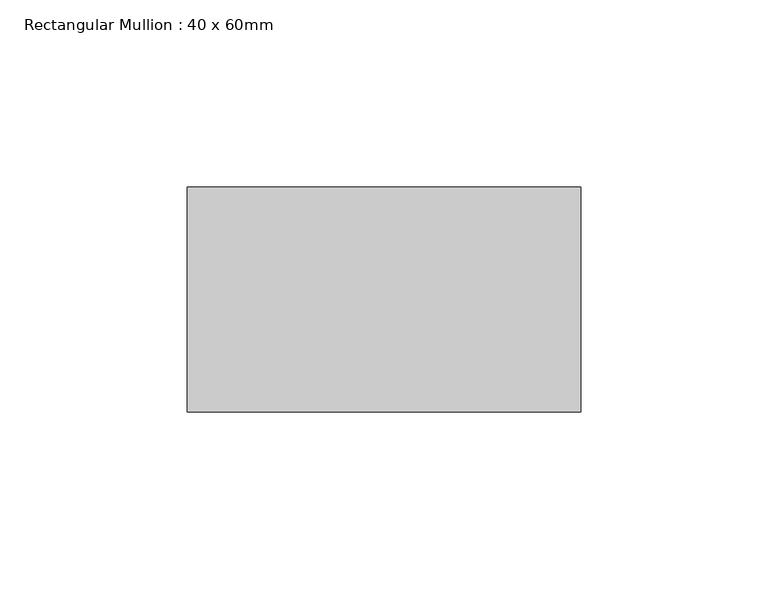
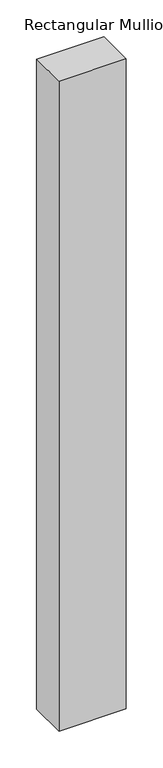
"""IFC4 building model written with IfcOpenShell, lengths in millimetres: member geometry, Rectangular Mullion : 40 x 60mm."""

from ifc_helpers import new_model, si_unit, frame, origin, place, context, project, spatial, polyline, outline, extrude, source, transform, mapped, element, save


def rectangular_mullion_40_x_60mm_a4622831(model_context):
    return source(origin(), model_context, "Body", "SweptSolid", [
        extrude(outline(polyline([(0.0, -10.0), (0.0, -70.0), (-105.0, -70.0), (-105.0, -10.0), (0.0, -10.0)])), frame((0.0, 0.0, -1073.1706287), z_axis=(0.0, 0.0, 1.0), x_axis=(1.0, 0.0, 0.0)), (0.0, 0.0, 1.0), 1073.1706287),
    ])


if __name__ == "__main__":
    model = new_model("IFC4")
    model_context = context("Model", 3, world=origin())
    ifc_project = project(units=[si_unit("LENGTHUNIT", "METRE", prefix="MILLI")], contexts=[model_context])
    site = spatial("IfcSite", under=ifc_project)
    building = spatial("IfcBuilding", under=site)
    placement = place(None, origin())
    rectangular_mullion_40_x_60mm_shape = rectangular_mullion_40_x_60mm_a4622831(model_context)
    element("IfcMember", 1, ObjectType="Rectangular Mullion : 40 x 60mm", at=placement, inside=building, context=model_context, shape_type="MappedRepresentation", body=[
        mapped(rectangular_mullion_40_x_60mm_shape, transform((0.0, 0.0, 0.0), x_axis=(1.0, 0.0, 0.0), y_axis=(0.0, 1.0, 0.0), z_axis=(0.0, 0.0, 1.0))),
    ])
    save(model, "model.ifc")
